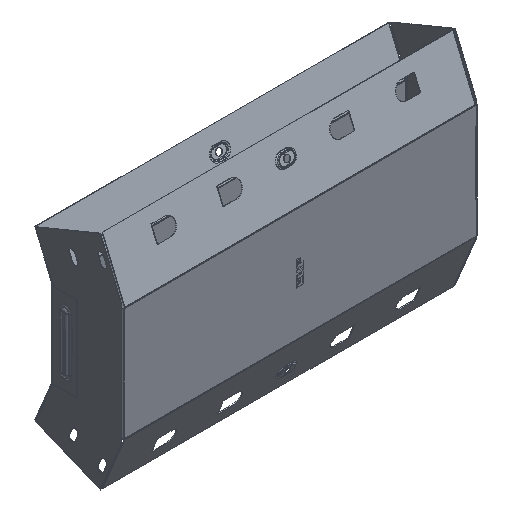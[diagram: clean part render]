
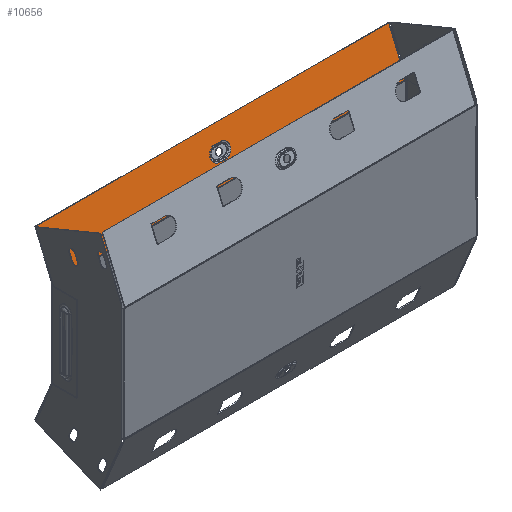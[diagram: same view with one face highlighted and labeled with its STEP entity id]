
A CAD part, isometric view. The second image highlights one B-rep face of the part: STEP entity #10656.
In plain terms, the highlighted planar face has unit normal (0, -0.924, 0.383).
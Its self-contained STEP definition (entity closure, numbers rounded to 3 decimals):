
#33 = PLANE ( 'NONE',  #1529 ) ;
#126 = VERTEX_POINT ( 'NONE', #10051 ) ;
#208 = ORIENTED_EDGE ( 'NONE', *, *, #5112, .F. ) ;
#245 = EDGE_CURVE ( 'NONE', #126, #10121, #11127, .T. ) ;
#427 = CARTESIAN_POINT ( 'NONE',  ( 3.5, 6.303, 65.307 ) ) ;
#506 = CARTESIAN_POINT ( 'NONE',  ( -3.5, 12.118, 79.347 ) ) ;
#906 = EDGE_CURVE ( 'NONE', #11689, #8330, #1440, .T. ) ;
#1076 = EDGE_CURVE ( 'NONE', #8330, #126, #15235, .T. ) ;
#1376 = VERTEX_POINT ( 'NONE', #15031 ) ;
#1402 = CARTESIAN_POINT ( 'NONE',  ( -3.5, 12.118, 79.347 ) ) ;
#1440 = LINE ( 'NONE', #1402, #7926 ) ;
#1529 = AXIS2_PLACEMENT_3D ( 'NONE', #3671, #12978, #5938 ) ;
#1531 = VECTOR ( 'NONE', #7720, 1000. ) ;
#1567 = CARTESIAN_POINT ( 'NONE',  ( 199., -0.663, 48.49 ) ) ;
#2126 = VECTOR ( 'NONE', #12667, 1000. ) ;
#2246 = DIRECTION ( 'NONE',  ( -1., 0., 0. ) ) ;
#2350 = CARTESIAN_POINT ( 'NONE',  ( 199., -0.663, 48.49 ) ) ;
#2730 = CARTESIAN_POINT ( 'NONE',  ( 199., 18.395, 94.5 ) ) ;
#2960 = ORIENTED_EDGE ( 'NONE', *, *, #9456, .F. ) ;
#3038 = CARTESIAN_POINT ( 'NONE',  ( -199., -0.663, 48.49 ) ) ;
#3201 = DIRECTION ( 'NONE',  ( 0., -0.383, -0.924 ) ) ;
#3671 = CARTESIAN_POINT ( 'NONE',  ( 199., -0.739, 48.306 ) ) ;
#4360 = EDGE_CURVE ( 'NONE', #10121, #11689, #11634, .T. ) ;
#4704 = ORIENTED_EDGE ( 'NONE', *, *, #245, .F. ) ;
#4772 = DIRECTION ( 'NONE',  ( 0., -0.383, -0.924 ) ) ;
#4965 = VECTOR ( 'NONE', #2246, 1000. ) ;
#4983 = DIRECTION ( 'NONE',  ( 0., -0.383, -0.924 ) ) ;
#5079 = ORIENTED_EDGE ( 'NONE', *, *, #14501, .T. ) ;
#5112 = EDGE_CURVE ( 'NONE', #11903, #6952, #10138, .T. ) ;
#5354 = ORIENTED_EDGE ( 'NONE', *, *, #906, .F. ) ;
#5539 = ORIENTED_EDGE ( 'NONE', *, *, #4360, .F. ) ;
#5589 = LINE ( 'NONE', #11328, #11114 ) ;
#5938 = DIRECTION ( 'NONE',  ( 0., 0.383, 0.924 ) ) ;
#6400 = CARTESIAN_POINT ( 'NONE',  ( -3.5, 9.211, 72.327 ) ) ;
#6478 = FACE_BOUND ( 'NONE', #9164, .T. ) ;
#6952 = VERTEX_POINT ( 'NONE', #3038 ) ;
#7471 = ORIENTED_EDGE ( 'NONE', *, *, #1076, .F. ) ;
#7516 = CARTESIAN_POINT ( 'NONE',  ( -199., -0.739, 48.306 ) ) ;
#7720 = DIRECTION ( 'NONE',  ( 0., -0.383, -0.924 ) ) ;
#7908 = ORIENTED_EDGE ( 'NONE', *, *, #14271, .T. ) ;
#7926 = VECTOR ( 'NONE', #8481, 1000. ) ;
#8298 = CARTESIAN_POINT ( 'NONE',  ( 3.5, 12.118, 79.347 ) ) ;
#8330 = VERTEX_POINT ( 'NONE', #506 ) ;
#8481 = DIRECTION ( 'NONE',  ( -1., 0., 0. ) ) ;
#8534 = CARTESIAN_POINT ( 'NONE',  ( 199., 18.395, 94.5 ) ) ;
#8631 = DIRECTION ( 'NONE',  ( -1., 0., 0. ) ) ;
#9109 = LINE ( 'NONE', #8534, #14783 ) ;
#9164 = EDGE_LOOP ( 'NONE', ( #5539, #4704, #7471, #5354 ) ) ;
#9299 = LINE ( 'NONE', #7516, #1531 ) ;
#9444 = FACE_OUTER_BOUND ( 'NONE', #12029, .T. ) ;
#9456 = EDGE_CURVE ( 'NONE', #13619, #11903, #5589, .T. ) ;
#10051 = CARTESIAN_POINT ( 'NONE',  ( -3.5, 6.303, 65.307 ) ) ;
#10121 = VERTEX_POINT ( 'NONE', #427 ) ;
#10138 = LINE ( 'NONE', #2350, #4965 ) ;
#10656 = ADVANCED_FACE ( 'NONE', ( #6478, #9444 ), #33, .F. ) ;
#10802 = AXIS2_PLACEMENT_3D ( 'NONE', #14109, #11814, #4772 ) ;
#10853 = DIRECTION ( 'NONE',  ( 0., -0.924, 0.383 ) ) ;
#11114 = VECTOR ( 'NONE', #3201, 1000. ) ;
#11127 = LINE ( 'NONE', #14855, #2126 ) ;
#11328 = CARTESIAN_POINT ( 'NONE',  ( 199., -0.739, 48.306 ) ) ;
#11634 = CIRCLE ( 'NONE', #10802, 7.598 ) ;
#11689 = VERTEX_POINT ( 'NONE', #8298 ) ;
#11814 = DIRECTION ( 'NONE',  ( 0., -0.924, 0.383 ) ) ;
#11903 = VERTEX_POINT ( 'NONE', #1567 ) ;
#12029 = EDGE_LOOP ( 'NONE', ( #5079, #208, #2960, #7908 ) ) ;
#12664 = AXIS2_PLACEMENT_3D ( 'NONE', #6400, #10853, #4983 ) ;
#12667 = DIRECTION ( 'NONE',  ( 1., 0., 0. ) ) ;
#12978 = DIRECTION ( 'NONE',  ( 0., 0.924, -0.383 ) ) ;
#13619 = VERTEX_POINT ( 'NONE', #2730 ) ;
#14109 = CARTESIAN_POINT ( 'NONE',  ( 3.5, 9.211, 72.327 ) ) ;
#14271 = EDGE_CURVE ( 'NONE', #13619, #1376, #9109, .T. ) ;
#14501 = EDGE_CURVE ( 'NONE', #1376, #6952, #9299, .T. ) ;
#14783 = VECTOR ( 'NONE', #8631, 1000. ) ;
#14855 = CARTESIAN_POINT ( 'NONE',  ( -3.5, 6.303, 65.307 ) ) ;
#15031 = CARTESIAN_POINT ( 'NONE',  ( -199., 18.395, 94.5 ) ) ;
#15235 = CIRCLE ( 'NONE', #12664, 7.598 ) ;
